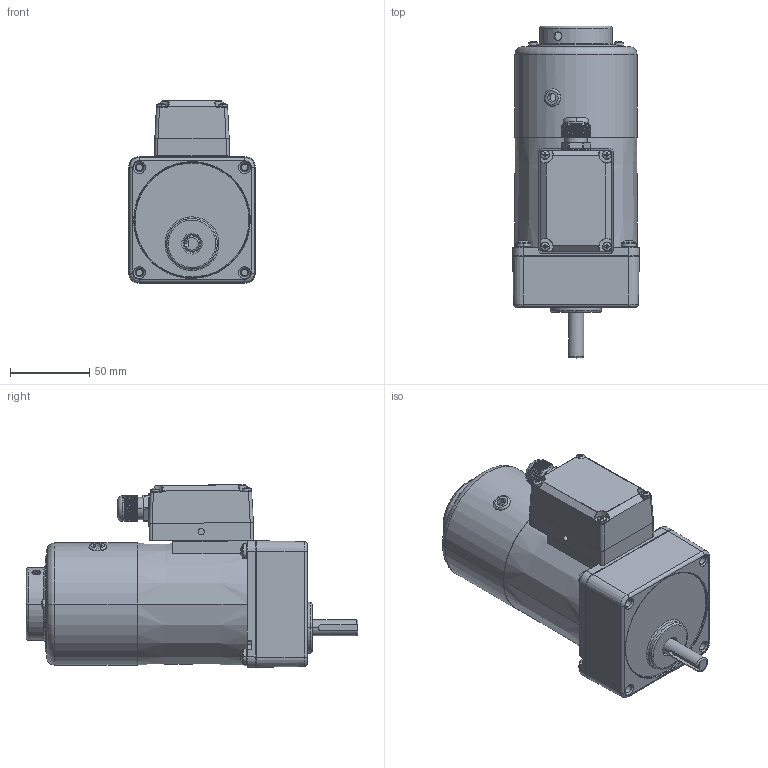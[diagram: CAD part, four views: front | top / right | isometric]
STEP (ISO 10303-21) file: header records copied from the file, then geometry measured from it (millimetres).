
FILE_DESCRIPTION (( 'STEP AP203' ), '1' );
FILE_NAME ('4RK25RGN-CMT(4GN3K-18K).STEP', '2022-10-28T05:27:04', ( 'Windows User' ), ( 'P R C' ), 'SwSTEP 2.0', 'SolidWorks 2019', '' );
FILE_SCHEMA (( 'CONFIG_CONTROL_DESIGN' ));
Length unit declared in the file: millimetre
Products named in the file (24): M5^4RK25GN-CMT(4GN3K-18K)_4RK25RGN-CMT(4GN3K-18K)(2)_4RK25RGN-CMT(4GN3K-18K); 葩璃 (2) ^_70TSJXHG.STEP.STEP_4RK25GN-CMT.STEP_4RK25GN-CMT_4RK25GN-CMT(4GN3K-18K)_4RK25RGN-CMT(4GN3K-18K)(2)_4RK25RGN-CMT(4GN3K-18K); ^80SCZ.STEP_4RK25GN-CMT.STEP_4RK25GN-CMT_4RK25GN-CMT(4GN3K-18K)_4RK25RGN-CMT(4GN3K-18K)(2)_4RK25RGN-CMT(4GN3K-18K); 4RK25GN-CMT(4GN3K-18K)^4RK25RGN-CMT(4GN3K-18K)(2)_4RK25RGN-CMT(4GN3K-18K); 80TSJXHJK.STEP^4RK25GN-CMT.STEP_4RK25GN-CMT_4RK25GN-CMT(4GN3K-18K)_4RK25RGN-CMT(4GN3K-18K)(2)_4RK25RGN-CMT(4GN3K-18K); 葩璃 (3) ^_80SCZ.STEP_4RK25GN-CMT.STEP_4RK25GN-CMT_4RK25GN-CMT(4GN3K-18K)_4RK25RGN-CMT(4GN3K-18K)(2)_4RK25RGN-CMT(4GN3K-18K); 葩璃 (3) ^_70TSJXHG.STEP.STEP_4RK25GN-CMT.STEP_4RK25GN-CMT_4RK25GN-CMT(4GN3K-18K)_4RK25RGN-CMT(4GN3K-18K)(2)_4RK25RGN-CMT(4GN3K-18K); 4RK25RGN-CMT(4GN3K-18K)(2)^4RK25RGN-CMT(4GN3K-18K); 葩璃 (2) ^_80SCZ.STEP_4RK25GN-CMT.STEP_4RK25GN-CMT_4RK25GN-CMT(4GN3K-18K)_4RK25RGN-CMT(4GN3K-18K)(2)_4RK25RGN-CMT(4GN3K-18K); 4RK25RGN-CMT(4GN3K-18K); 4RK25GN-CMT^4RK25GN-CMT(4GN3K-18K)_4RK25RGN-CMT(4GN3K-18K)(2)_4RK25RGN-CMT(4GN3K-18K); 葩璃 (4) ^_80SCZ.STEP_4RK25GN-CMT.STEP_4RK25GN-CMT_4RK25GN-CMT(4GN3K-18K)_4RK25RGN-CMT(4GN3K-18K)(2)_4RK25RGN-CMT(4GN3K-18K); 4RK25GN-CMT.STEP^4RK25GN-CMT_4RK25GN-CMT(4GN3K-18K)_4RK25RGN-CMT(4GN3K-18K)(2)_4RK25RGN-CMT(4GN3K-18K); ^70TSZ_4RK25RGN-CMT(4GN3K-18K)(2)_4RK25RGN-CMT(4GN3K-18K); 70TSZ^4RK25RGN-CMT(4GN3K-18K)(2)_4RK25RGN-CMT(4GN3K-18K); 葩璃 (3) ^_70TSZ_4RK25RGN-CMT(4GN3K-18K)(2)_4RK25RGN-CMT(4GN3K-18K); 70TSJXHG.STEP.STEP^4RK25GN-CMT.STEP_4RK25GN-CMT_4RK25GN-CMT(4GN3K-18K)_4RK25RGN-CMT(4GN3K-18K)(2)_4RK25RGN-CMT(4GN3K-18K); ^_80SCZ.STEP_4RK25GN-CMT.STEP_4RK25GN-CMT_4RK25GN-CMT(4GN3K-18K)_4RK25RGN-CMT(4GN3K-18K)(2)_4RK25RGN-CMT(4GN3K-18K); 80SCZ.STEP^4RK25GN-CMT.STEP_4RK25GN-CMT_4RK25GN-CMT(4GN3K-18K)_4RK25RGN-CMT(4GN3K-18K)(2)_4RK25RGN-CMT(4GN3K-18K); ^_70TSJXHG.STEP.STEP_4RK25GN-CMT.STEP_4RK25GN-CMT_4RK25GN-CMT(4GN3K-18K)_4RK25RGN-CMT(4GN3K-18K)(2)_4RK25RGN-CMT(4GN3K-18K); 葩璃 (2) ^_70TSZ_4RK25RGN-CMT(4GN3K-18K)(2)_4RK25RGN-CMT(4GN3K-18K); 4GN3K-18K; ^_70TSZ_4RK25RGN-CMT(4GN3K-18K)(2)_4RK25RGN-CMT(4GN3K-18K); ^70TSJXHG.STEP.STEP_4RK25GN-CMT.STEP_4RK25GN-CMT_4RK25GN-CMT(4GN3K-18K)_4RK25RGN-CMT(4GN3K-18K)(2)_4RK25RGN-CMT(4GN3K-18K)
Assembly tree (29 placements, depth 8):
  4RK25RGN-CMT(4GN3K-18K)
    4RK25RGN-CMT(4GN3K-18K)(2)^4RK25RGN-CMT(4GN3K-18K)
      4RK25GN-CMT(4GN3K-18K)^4RK25RGN-CMT(4GN3K-18K)(2)_4RK25RGN-CMT(4GN3K-18K)
        4RK25GN-CMT^4RK25GN-CMT(4GN3K-18K)_4RK25RGN-CMT(4GN3K-18K)(2)_4RK25RGN-CMT(4GN3K-18K)
          4RK25GN-CMT.STEP^4RK25GN-CMT_4RK25GN-CMT(4GN3K-18K)_4RK25RGN-CMT(4GN3K-18K)(2)_4RK25RGN-CMT(4GN3K-18K)
            70TSJXHG.STEP.STEP^4RK25GN-CMT.STEP_4RK25GN-CMT_4RK25GN-CMT(4GN3K-18K)_4RK25RGN-CMT(4GN3K-18K)(2)_4RK25RGN-CMT(4GN3K-18K)
              ^70TSJXHG.STEP.STEP_4RK25GN-CMT.STEP_4RK25GN-CMT_4RK25GN-CMT(4GN3K-18K)_4RK25RGN-CMT(4GN3K-18K)(2)_4RK25RGN-CMT(4GN3K-18K)
                ^_70TSJXHG.STEP.STEP_4RK25GN-CMT.STEP_4RK25GN-CMT_4RK25GN-CMT(4GN3K-18K)_4RK25RGN-CMT(4GN3K-18K)(2)_4RK25RGN-CMT(4GN3K-18K)
                葩璃 (2) ^_70TSJXHG.STEP.STEP_4RK25GN-CMT.STEP_4RK25GN-CMT_4RK25GN-CMT(4GN3K-18K)_4RK25RGN-CMT(4GN3K-18K)(2)_4RK25RGN-CMT(4GN3K-18K)
                葩璃 (3) ^_70TSJXHG.STEP.STEP_4RK25GN-CMT.STEP_4RK25GN-CMT_4RK25GN-CMT(4GN3K-18K)_4RK25RGN-CMT(4GN3K-18K)(2)_4RK25RGN-CMT(4GN3K-18K)  x4
            80SCZ.STEP^4RK25GN-CMT.STEP_4RK25GN-CMT_4RK25GN-CMT(4GN3K-18K)_4RK25RGN-CMT(4GN3K-18K)(2)_4RK25RGN-CMT(4GN3K-18K)
              ^80SCZ.STEP_4RK25GN-CMT.STEP_4RK25GN-CMT_4RK25GN-CMT(4GN3K-18K)_4RK25RGN-CMT(4GN3K-18K)(2)_4RK25RGN-CMT(4GN3K-18K)
                ^_80SCZ.STEP_4RK25GN-CMT.STEP_4RK25GN-CMT_4RK25GN-CMT(4GN3K-18K)_4RK25RGN-CMT(4GN3K-18K)(2)_4RK25RGN-CMT(4GN3K-18K)
                葩璃 (2) ^_80SCZ.STEP_4RK25GN-CMT.STEP_4RK25GN-CMT_4RK25GN-CMT(4GN3K-18K)_4RK25RGN-CMT(4GN3K-18K)(2)_4RK25RGN-CMT(4GN3K-18K)
                葩璃 (3) ^_80SCZ.STEP_4RK25GN-CMT.STEP_4RK25GN-CMT_4RK25GN-CMT(4GN3K-18K)_4RK25RGN-CMT(4GN3K-18K)(2)_4RK25RGN-CMT(4GN3K-18K)
                葩璃 (4) ^_80SCZ.STEP_4RK25GN-CMT.STEP_4RK25GN-CMT_4RK25GN-CMT(4GN3K-18K)_4RK25RGN-CMT(4GN3K-18K)(2)_4RK25RGN-CMT(4GN3K-18K)
            80TSJXHJK.STEP^4RK25GN-CMT.STEP_4RK25GN-CMT_4RK25GN-CMT(4GN3K-18K)_4RK25RGN-CMT(4GN3K-18K)(2)_4RK25RGN-CMT(4GN3K-18K)
        M5^4RK25GN-CMT(4GN3K-18K)_4RK25RGN-CMT(4GN3K-18K)(2)_4RK25RGN-CMT(4GN3K-18K)  x4
      70TSZ^4RK25RGN-CMT(4GN3K-18K)(2)_4RK25RGN-CMT(4GN3K-18K)
        ^70TSZ_4RK25RGN-CMT(4GN3K-18K)(2)_4RK25RGN-CMT(4GN3K-18K)
          ^_70TSZ_4RK25RGN-CMT(4GN3K-18K)(2)_4RK25RGN-CMT(4GN3K-18K)
          葩璃 (2) ^_70TSZ_4RK25RGN-CMT(4GN3K-18K)(2)_4RK25RGN-CMT(4GN3K-18K)
          葩璃 (3) ^_70TSZ_4RK25RGN-CMT(4GN3K-18K)(2)_4RK25RGN-CMT(4GN3K-18K)
    4GN3K-18K
Bounding box: 80 x 209.8 x 115.44 mm (x, y, z)
Volume: 505695.6 mm3; surface area: 161240 mm2
Topology: 19 solids, 20 shells, 2345 faces, 6085 edges, 3793 vertices
Faces by surface type: cone 1071, cylinder 757, plane 379, torus 85, sphere 32, bspline 21
Entity records: 52358 total; most frequent: CARTESIAN_POINT 13694, DIRECTION 8218, ORIENTED_EDGE 7360, EDGE_CURVE 3680, AXIS2_PLACEMENT_3D 3425, VERTEX_POINT 2326, CIRCLE 1968, EDGE_LOOP 1520
